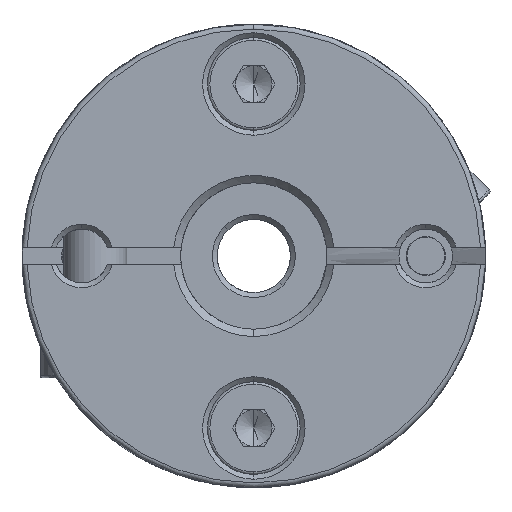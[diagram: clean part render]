
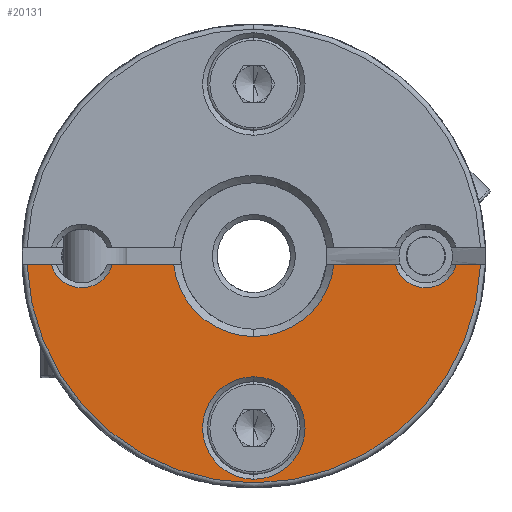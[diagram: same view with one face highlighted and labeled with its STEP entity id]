
A CAD part, front view. The second image highlights one B-rep face of the part: STEP entity #20131.
In plain terms, the highlighted planar face has unit normal (0, -1, 0).
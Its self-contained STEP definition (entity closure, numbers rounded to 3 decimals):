
#1138 = AXIS2_PLACEMENT_3D ( 'NONE', #19008, #19010, #18996 ) ;
#1755 = AXIS2_PLACEMENT_3D ( 'NONE', #13892, #13893, #12585 ) ;
#1908 = AXIS2_PLACEMENT_3D ( 'NONE', #7772, #7773, #7774 ) ;
#2108 = AXIS2_PLACEMENT_3D ( 'NONE', #10402, #10403, #10404 ) ;
#2115 = AXIS2_PLACEMENT_3D ( 'NONE', #10429, #10430, #10431 ) ;
#2117 = AXIS2_PLACEMENT_3D ( 'NONE', #10444, #10445, #10446 ) ;
#2122 = AXIS2_PLACEMENT_3D ( 'NONE', #10494, #10495, #10496 ) ;
#2123 = AXIS2_PLACEMENT_3D ( 'NONE', #10501, #10502, #10503 ) ;
#4956 = CARTESIAN_POINT ( 'NONE',  ( 0., -10.55, -9.15 ) ) ;
#4961 = CARTESIAN_POINT ( 'NONE',  ( 0., -10.55, -4.95 ) ) ;
#6571 = CIRCLE ( 'NONE', #2117, 1.3 ) ;
#6601 = CIRCLE ( 'NONE', #2108, 2.1 ) ;
#6609 = CIRCLE ( 'NONE', #2115, 1.3 ) ;
#6624 = LINE ( 'NONE', #10490, #6627 ) ;
#6626 = CIRCLE ( 'NONE', #2122, 3.3 ) ;
#6627 = VECTOR ( 'NONE', #10491, 1000. ) ;
#6628 = LINE ( 'NONE', #10485, #6630 ) ;
#6629 = LINE ( 'NONE', #10497, #6632 ) ;
#6630 = VECTOR ( 'NONE', #10484, 1000. ) ;
#6631 = CIRCLE ( 'NONE', #2123, 9.3 ) ;
#6632 = VECTOR ( 'NONE', #10498, 1000. ) ;
#6633 = LINE ( 'NONE', #10492, #6635 ) ;
#6635 = VECTOR ( 'NONE', #10493, 1000. ) ;
#6952 = CARTESIAN_POINT ( 'NONE',  ( 5.798, -10.55, -0.35 ) ) ;
#6969 = CARTESIAN_POINT ( 'NONE',  ( 8.302, -10.55, -0.35 ) ) ;
#6986 = CARTESIAN_POINT ( 'NONE',  ( -5.798, -10.55, -0.35 ) ) ;
#7000 = CARTESIAN_POINT ( 'NONE',  ( -8.302, -10.55, -0.35 ) ) ;
#7004 = CARTESIAN_POINT ( 'NONE',  ( -3.281, -10.55, -0.35 ) ) ;
#7005 = CARTESIAN_POINT ( 'NONE',  ( 9.293, -10.55, -0.35 ) ) ;
#7012 = CARTESIAN_POINT ( 'NONE',  ( -9.293, -10.55, -0.35 ) ) ;
#7772 = CARTESIAN_POINT ( 'NONE',  ( 0., -10.55, -7.05 ) ) ;
#7773 = DIRECTION ( 'NONE',  ( 0., 1., 0. ) ) ;
#7774 = DIRECTION ( 'NONE',  ( 0., 0., 1. ) ) ;
#8200 = CIRCLE ( 'NONE', #1755, 3.3 ) ;
#8511 = CIRCLE ( 'NONE', #1908, 2.1 ) ;
#9114 = EDGE_LOOP ( 'NONE', ( #16730, #17103, #17060, #16699, #16744, #16880, #16732, #17077, #17054 ) ) ;
#9127 = EDGE_LOOP ( 'NONE', ( #16856, #17067 ) ) ;
#10217 = FACE_OUTER_BOUND ( 'NONE', #9114, .T. ) ;
#10231 = FACE_BOUND ( 'NONE', #9127, .T. ) ;
#10402 = CARTESIAN_POINT ( 'NONE',  ( 0., -10.55, -7.05 ) ) ;
#10403 = DIRECTION ( 'NONE',  ( 0., 1., 0. ) ) ;
#10404 = DIRECTION ( 'NONE',  ( 0., 0., 1. ) ) ;
#10429 = CARTESIAN_POINT ( 'NONE',  ( 7.05, -10.55, 0. ) ) ;
#10430 = DIRECTION ( 'NONE',  ( 0., 1., 0. ) ) ;
#10431 = DIRECTION ( 'NONE',  ( 0., 0., 1. ) ) ;
#10444 = CARTESIAN_POINT ( 'NONE',  ( -7.05, -10.55, 0. ) ) ;
#10445 = DIRECTION ( 'NONE',  ( 0., 1., 0. ) ) ;
#10446 = DIRECTION ( 'NONE',  ( 0., 0., 1. ) ) ;
#10484 = DIRECTION ( 'NONE',  ( -1., 0., 0. ) ) ;
#10485 = CARTESIAN_POINT ( 'NONE',  ( 0., -10.55, -0.35 ) ) ;
#10490 = CARTESIAN_POINT ( 'NONE',  ( 0., -10.55, -0.35 ) ) ;
#10491 = DIRECTION ( 'NONE',  ( -1., 0., 0. ) ) ;
#10492 = CARTESIAN_POINT ( 'NONE',  ( 0., -10.55, -0.35 ) ) ;
#10493 = DIRECTION ( 'NONE',  ( -1., 0., 0. ) ) ;
#10494 = CARTESIAN_POINT ( 'NONE',  ( 0., -10.55, 0. ) ) ;
#10495 = DIRECTION ( 'NONE',  ( 0., 1., 0. ) ) ;
#10496 = DIRECTION ( 'NONE',  ( 0., 0., -1. ) ) ;
#10497 = CARTESIAN_POINT ( 'NONE',  ( 0., -10.55, -0.35 ) ) ;
#10498 = DIRECTION ( 'NONE',  ( -1., 0., 0. ) ) ;
#10501 = CARTESIAN_POINT ( 'NONE',  ( 0., -10.55, 0. ) ) ;
#10502 = DIRECTION ( 'NONE',  ( 0., -1., 0. ) ) ;
#10503 = DIRECTION ( 'NONE',  ( 0., 0., 1. ) ) ;
#11625 = VERTEX_POINT ( 'NONE', #7005 ) ;
#11628 = VERTEX_POINT ( 'NONE', #7012 ) ;
#11632 = VERTEX_POINT ( 'NONE', #7004 ) ;
#11636 = VERTEX_POINT ( 'NONE', #7000 ) ;
#11649 = VERTEX_POINT ( 'NONE', #6986 ) ;
#11669 = VERTEX_POINT ( 'NONE', #6969 ) ;
#11685 = VERTEX_POINT ( 'NONE', #6952 ) ;
#11860 = VERTEX_POINT ( 'NONE', #4961 ) ;
#11864 = VERTEX_POINT ( 'NONE', #4956 ) ;
#12585 = DIRECTION ( 'NONE',  ( 0., 0., -1. ) ) ;
#13892 = CARTESIAN_POINT ( 'NONE',  ( 0., -10.55, 0. ) ) ;
#13893 = DIRECTION ( 'NONE',  ( 0., 1., 0. ) ) ;
#16699 = ORIENTED_EDGE ( 'NONE', *, *, #21738, .T. ) ;
#16730 = ORIENTED_EDGE ( 'NONE', *, *, #21736, .T. ) ;
#16732 = ORIENTED_EDGE ( 'NONE', *, *, #21740, .T. ) ;
#16744 = ORIENTED_EDGE ( 'NONE', *, *, #21724, .T. ) ;
#16789 = VERTEX_POINT ( 'NONE', #18239 ) ;
#16856 = ORIENTED_EDGE ( 'NONE', *, *, #21321, .T. ) ;
#16880 = ORIENTED_EDGE ( 'NONE', *, *, #21739, .T. ) ;
#17054 = ORIENTED_EDGE ( 'NONE', *, *, #21720, .T. ) ;
#17060 = ORIENTED_EDGE ( 'NONE', *, *, #21737, .T. ) ;
#17067 = ORIENTED_EDGE ( 'NONE', *, *, #21712, .T. ) ;
#17077 = ORIENTED_EDGE ( 'NONE', *, *, #21741, .T. ) ;
#17103 = ORIENTED_EDGE ( 'NONE', *, *, #21075, .T. ) ;
#17179 = VERTEX_POINT ( 'NONE', #18199 ) ;
#18199 = CARTESIAN_POINT ( 'NONE',  ( 0., -10.55, -3.3 ) ) ;
#18239 = CARTESIAN_POINT ( 'NONE',  ( 3.281, -10.55, -0.35 ) ) ;
#18996 = DIRECTION ( 'NONE',  ( 0., 0., 1. ) ) ;
#19003 = PLANE ( 'NONE',  #1138 ) ;
#19008 = CARTESIAN_POINT ( 'NONE',  ( 0., -10.55, 0. ) ) ;
#19010 = DIRECTION ( 'NONE',  ( 0., -1., 0. ) ) ;
#20131 = ADVANCED_FACE ( 'NONE', ( #10217, #10231 ), #19003, .T. ) ;
#21075 = EDGE_CURVE ( 'NONE', #16789, #17179, #8200, .T. ) ;
#21321 = EDGE_CURVE ( 'NONE', #11860, #11864, #8511, .T. ) ;
#21712 = EDGE_CURVE ( 'NONE', #11864, #11860, #6601, .T. ) ;
#21720 = EDGE_CURVE ( 'NONE', #11669, #11685, #6609, .T. ) ;
#21724 = EDGE_CURVE ( 'NONE', #11649, #11636, #6571, .T. ) ;
#21736 = EDGE_CURVE ( 'NONE', #11685, #16789, #6624, .T. ) ;
#21737 = EDGE_CURVE ( 'NONE', #17179, #11632, #6626, .T. ) ;
#21738 = EDGE_CURVE ( 'NONE', #11632, #11649, #6628, .T. ) ;
#21739 = EDGE_CURVE ( 'NONE', #11636, #11628, #6629, .T. ) ;
#21740 = EDGE_CURVE ( 'NONE', #11628, #11625, #6631, .T. ) ;
#21741 = EDGE_CURVE ( 'NONE', #11625, #11669, #6633, .T. ) ;
